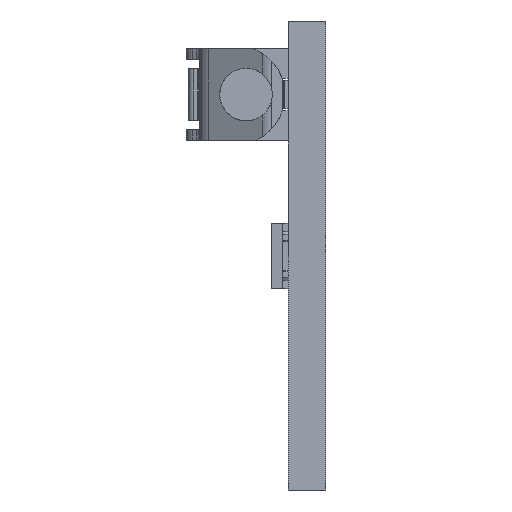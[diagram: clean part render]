
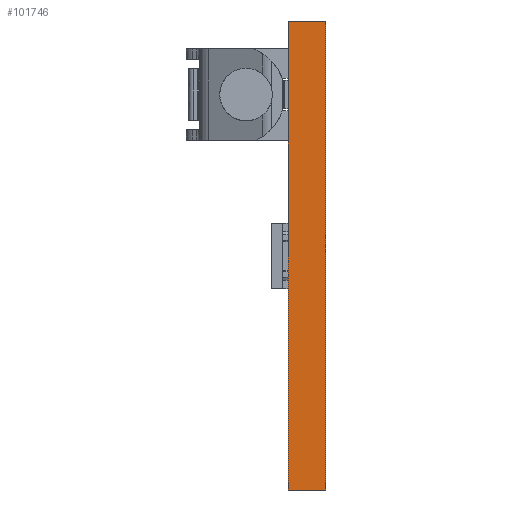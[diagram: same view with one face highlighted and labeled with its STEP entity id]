
A CAD part, left-side view. The second image highlights one B-rep face of the part: STEP entity #101746.
In plain terms, the highlighted planar face has unit normal (-1, 0, 0).
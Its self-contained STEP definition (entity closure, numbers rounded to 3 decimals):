
#10076=DIRECTION('',(0.,0.,1.));
#10077=VECTOR('',#10076,20.);
#10078=CARTESIAN_POINT('',(-69.5,0.,-12.9));
#10079=LINE('',#10078,#10077);
#29738=DIRECTION('',(0.,0.,1.));
#29739=VECTOR('',#29738,20.);
#29740=CARTESIAN_POINT('',(-69.5,-1.6,-12.9));
#29741=LINE('',#29740,#29739);
#29989=DIRECTION('',(0.,-1.,0.));
#29990=VECTOR('',#29989,1.6);
#29991=CARTESIAN_POINT('',(-69.5,0.,-12.9));
#29992=LINE('',#29991,#29990);
#29993=DIRECTION('',(0.,-1.,0.));
#29994=VECTOR('',#29993,1.6);
#29995=CARTESIAN_POINT('',(-69.5,0.,7.1));
#29996=LINE('',#29995,#29994);
#30211=CARTESIAN_POINT('',(-69.5,0.,-12.9));
#30212=VERTEX_POINT('',#30211);
#30213=CARTESIAN_POINT('',(-69.5,0.,7.1));
#30214=VERTEX_POINT('',#30213);
#30339=CARTESIAN_POINT('',(-69.5,-1.6,-12.9));
#30340=VERTEX_POINT('',#30339);
#30341=CARTESIAN_POINT('',(-69.5,-1.6,7.1));
#30342=VERTEX_POINT('',#30341);
#101734=CARTESIAN_POINT('',(-69.5,0.,-12.9));
#101735=DIRECTION('',(-1.,0.,0.));
#101736=DIRECTION('',(0.,0.,1.));
#101737=AXIS2_PLACEMENT_3D('',#101734,#101735,#101736);
#101738=PLANE('',#101737);
#101739=ORIENTED_EDGE('',*,*,#41498,.T.);
#101741=ORIENTED_EDGE('',*,*,#101740,.T.);
#101742=ORIENTED_EDGE('',*,*,#100695,.F.);
#101743=ORIENTED_EDGE('',*,*,#101720,.F.);
#101744=EDGE_LOOP('',(#101739,#101741,#101742,#101743));
#101745=FACE_OUTER_BOUND('',#101744,.F.);
#41498=EDGE_CURVE('',#30212,#30214,#10079,.T.);
#100695=EDGE_CURVE('',#30340,#30342,#29741,.T.);
#101720=EDGE_CURVE('',#30212,#30340,#29992,.T.);
#101740=EDGE_CURVE('',#30214,#30342,#29996,.T.);
#101746=ADVANCED_FACE('',(#101745),#101738,.T.);
